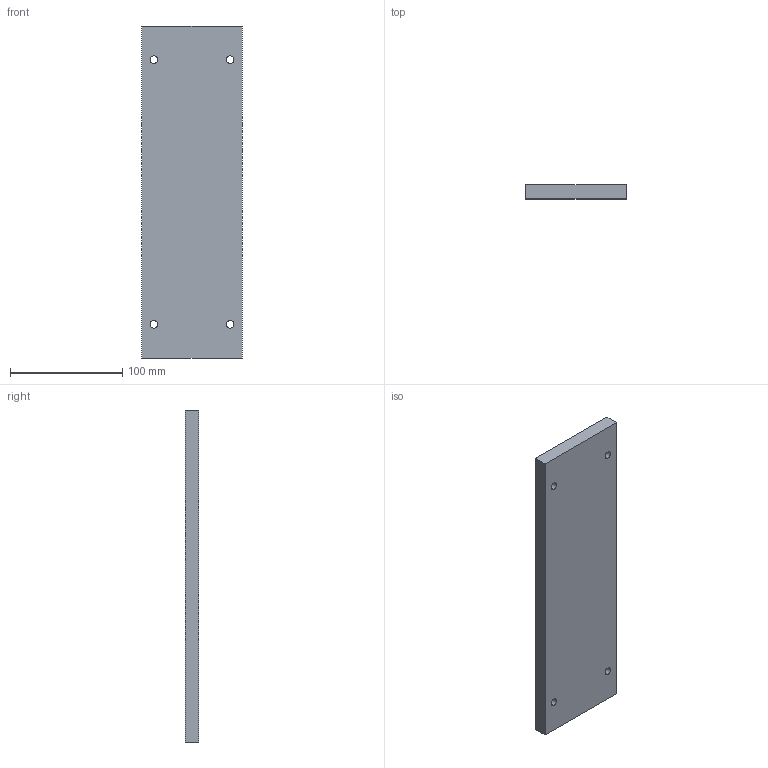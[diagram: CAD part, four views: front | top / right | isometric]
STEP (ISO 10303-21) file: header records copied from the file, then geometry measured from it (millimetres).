
FILE_DESCRIPTION (( 'STEP AP214' ), '1' );
FILE_NAME ('L55_156x296x12.STEP', '2016-08-18T21:29:07', ( '' ), ( '' ), 'SwSTEP 2.0', 'SolidWorks 2014', '' );
FILE_SCHEMA (( 'AUTOMOTIVE_DESIGN' ));
Length unit declared in the file: millimetre
Products named in the file (1): L55_156x296x12
Bounding box: 90 x 12 x 296 mm (x, y, z)
Volume: 317936.8 mm3; surface area: 63278.9 mm2
Topology: 1 solids, 1 shells, 14 faces, 36 edges, 24 vertices
Faces by surface type: cylinder 8, plane 6
Entity records: 574 total; most frequent: DIRECTION 82, CARTESIAN_POINT 75, ORIENTED_EDGE 72, EDGE_CURVE 36, AXIS2_PLACEMENT_3D 31, VERTEX_POINT 24, EDGE_LOOP 22, LINE 20
